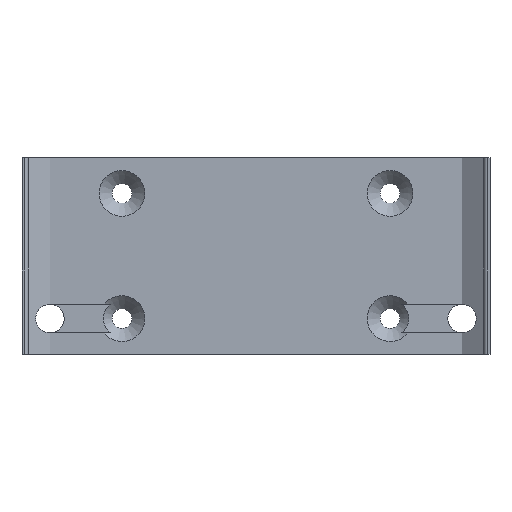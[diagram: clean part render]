
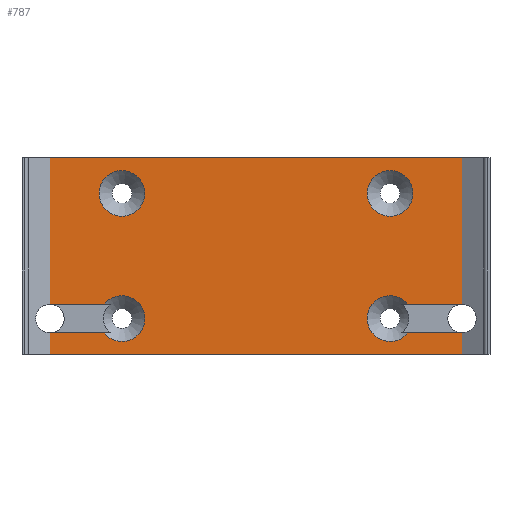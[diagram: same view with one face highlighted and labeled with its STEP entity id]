
A CAD part, top view. The second image highlights one B-rep face of the part: STEP entity #787.
In plain terms, the highlighted planar face has unit normal (0, 0, 1).
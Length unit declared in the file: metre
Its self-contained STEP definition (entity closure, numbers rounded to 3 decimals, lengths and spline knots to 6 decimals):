
#40=CIRCLE('',#820,0.0064);
#43=CIRCLE('',#825,0.0064);
#46=CIRCLE('',#830,0.0064);
#53=CIRCLE('',#865,0.0064);
#256=ORIENTED_EDGE('',*,*,#296,.T.);
#257=ORIENTED_EDGE('',*,*,#299,.T.);
#258=ORIENTED_EDGE('',*,*,#278,.F.);
#259=ORIENTED_EDGE('',*,*,#376,.F.);
#260=ORIENTED_EDGE('',*,*,#347,.T.);
#261=ORIENTED_EDGE('',*,*,#373,.T.);
#262=ORIENTED_EDGE('',*,*,#288,.T.);
#263=ORIENTED_EDGE('',*,*,#377,.T.);
#264=ORIENTED_EDGE('',*,*,#286,.T.);
#265=ORIENTED_EDGE('',*,*,#374,.T.);
#266=ORIENTED_EDGE('',*,*,#305,.F.);
#267=ORIENTED_EDGE('',*,*,#375,.F.);
#268=ORIENTED_EDGE('',*,*,#274,.F.);
#269=ORIENTED_EDGE('',*,*,#302,.T.);
#274=EDGE_CURVE('',#382,#383,#454,.T.);
#278=EDGE_CURVE('',#384,#385,#457,.T.);
#286=EDGE_CURVE('',#390,#391,#461,.T.);
#288=EDGE_CURVE('',#393,#392,#462,.T.);
#296=EDGE_CURVE('',#399,#399,#40,.T.);
#299=EDGE_CURVE('',#402,#402,#43,.T.);
#302=EDGE_CURVE('',#382,#385,#46,.T.);
#305=EDGE_CURVE('',#407,#408,#465,.T.);
#347=EDGE_CURVE('',#429,#449,#503,.T.);
#373=EDGE_CURVE('',#449,#393,#526,.T.);
#374=EDGE_CURVE('',#391,#408,#527,.T.);
#375=EDGE_CURVE('',#383,#407,#528,.T.);
#376=EDGE_CURVE('',#429,#384,#529,.T.);
#377=EDGE_CURVE('',#392,#390,#53,.T.);
#382=VERTEX_POINT('',#1091);
#383=VERTEX_POINT('',#1092);
#384=VERTEX_POINT('',#1100);
#385=VERTEX_POINT('',#1102);
#390=VERTEX_POINT('',#1121);
#391=VERTEX_POINT('',#1123);
#392=VERTEX_POINT('',#1130);
#393=VERTEX_POINT('',#1132);
#399=VERTEX_POINT('',#1149);
#402=VERTEX_POINT('',#1157);
#407=VERTEX_POINT('',#1171);
#408=VERTEX_POINT('',#1173);
#429=VERTEX_POINT('',#1216);
#449=VERTEX_POINT('',#1256);
#454=LINE('',#1090,#532);
#457=LINE('',#1101,#535);
#461=LINE('',#1124,#539);
#462=LINE('',#1131,#540);
#465=LINE('',#1172,#543);
#503=LINE('',#1257,#581);
#526=LINE('',#1305,#604);
#527=LINE('',#1306,#605);
#528=LINE('',#1308,#606);
#529=LINE('',#1309,#607);
#532=VECTOR('',#879,1.);
#535=VECTOR('',#884,1.);
#539=VECTOR('',#896,1.);
#540=VECTOR('',#899,1.);
#543=VECTOR('',#948,1.);
#581=VECTOR('',#996,1.);
#604=VECTOR('',#1065,1.);
#605=VECTOR('',#1066,1.);
#606=VECTOR('',#1069,1.);
#607=VECTOR('',#1070,1.);
#661=EDGE_LOOP('',(#256));
#662=EDGE_LOOP('',(#257));
#663=EDGE_LOOP('',(#258,#259,#260,#261,#262,#263,#264,#265,#266,#267,#268,
#269));
#717=FACE_BOUND('',#661,.T.);
#718=FACE_BOUND('',#662,.T.);
#719=FACE_BOUND('',#663,.T.);
#747=PLANE('',#866);
#787=ADVANCED_FACE('',(#717,#718,#719),#747,.T.);
#820=AXIS2_PLACEMENT_3D('',#1148,#919,#920);
#825=AXIS2_PLACEMENT_3D('',#1156,#929,#930);
#830=AXIS2_PLACEMENT_3D('',#1164,#939,#940);
#865=AXIS2_PLACEMENT_3D('',#1312,#1075,#1076);
#866=AXIS2_PLACEMENT_3D('',#1313,#1077,#1078);
#879=DIRECTION('',(-1.,0.,0.));
#884=DIRECTION('',(1.,0.,0.));
#896=DIRECTION('',(1.,0.,0.));
#899=DIRECTION('',(-1.,0.,0.));
#919=DIRECTION('',(0.,0.,-1.));
#920=DIRECTION('',(-1.,0.,0.));
#929=DIRECTION('',(0.,0.,-1.));
#930=DIRECTION('',(-1.,0.,0.));
#939=DIRECTION('',(0.,0.,-1.));
#940=DIRECTION('',(-1.,0.,0.));
#948=DIRECTION('',(1.,0.,0.));
#996=DIRECTION('',(1.,0.,0.));
#1065=DIRECTION('',(0.,1.,0.));
#1066=DIRECTION('',(0.,1.,0.));
#1069=DIRECTION('',(0.,1.,0.));
#1070=DIRECTION('',(0.,1.,0.));
#1075=DIRECTION('',(0.,0.,-1.));
#1076=DIRECTION('',(-1.,0.,0.));
#1077=DIRECTION('',(0.,0.,1.));
#1078=DIRECTION('',(1.,0.,0.));
#1090=CARTESIAN_POINT('',(0.057491,0.02675,-0.016919));
#1091=CARTESIAN_POINT('',(-0.042651,0.02675,-0.016919));
#1092=CARTESIAN_POINT('',(-0.0578,0.02675,-0.016919));
#1100=CARTESIAN_POINT('',(-0.0578,0.01875,-0.016919));
#1101=CARTESIAN_POINT('',(0.057491,0.01875,-0.016919));
#1102=CARTESIAN_POINT('',(-0.042651,0.01875,-0.016919));
#1121=CARTESIAN_POINT('',(0.042341,0.02675,-0.016919));
#1123=CARTESIAN_POINT('',(0.057491,0.02675,-0.016919));
#1124=CARTESIAN_POINT('',(0.057491,0.02675,-0.016919));
#1130=CARTESIAN_POINT('',(0.042341,0.01875,-0.016919));
#1131=CARTESIAN_POINT('',(0.057491,0.01875,-0.016919));
#1132=CARTESIAN_POINT('',(0.057491,0.01875,-0.016919));
#1148=CARTESIAN_POINT('',(0.037345,0.05775,-0.016919));
#1149=CARTESIAN_POINT('',(0.030945,0.05775,-0.016919));
#1156=CARTESIAN_POINT('',(-0.037655,0.05775,-0.016919));
#1157=CARTESIAN_POINT('',(-0.044055,0.05775,-0.016919));
#1164=CARTESIAN_POINT('',(-0.037655,0.02275,-0.016919));
#1171=CARTESIAN_POINT('',(-0.0578,0.06775,-0.016919));
#1172=CARTESIAN_POINT('',(-0.0578,0.06775,-0.016919));
#1173=CARTESIAN_POINT('',(0.057491,0.06775,-0.016919));
#1216=CARTESIAN_POINT('',(-0.0578,0.01275,-0.016919));
#1256=CARTESIAN_POINT('',(0.057491,0.01275,-0.016919));
#1257=CARTESIAN_POINT('',(-0.0578,0.01275,-0.016919));
#1305=CARTESIAN_POINT('',(0.057491,0.01275,-0.016919));
#1306=CARTESIAN_POINT('',(0.057491,0.01275,-0.016919));
#1308=CARTESIAN_POINT('',(-0.0578,0.01275,-0.016919));
#1309=CARTESIAN_POINT('',(-0.0578,0.01275,-0.016919));
#1312=CARTESIAN_POINT('',(0.037345,0.02275,-0.016919));
#1313=CARTESIAN_POINT('',(-0.0578,0.01275,-0.016919));
